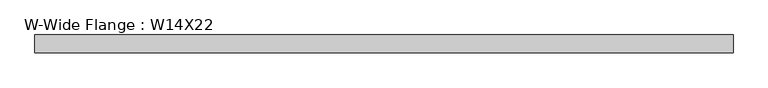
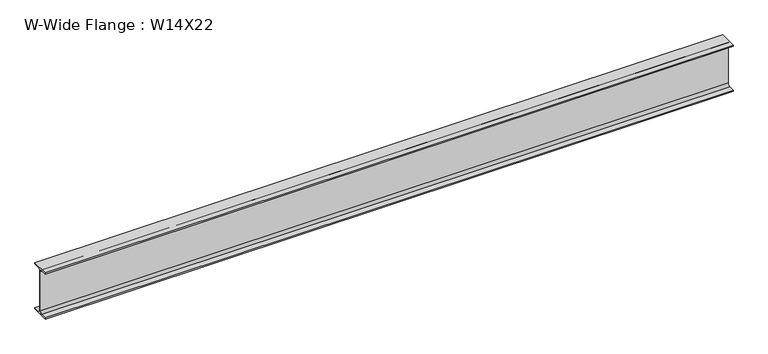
"""IFC4 building model written with IfcOpenShell, lengths in millimetres: beam geometry, W-Wide Flange : W14X22."""

from ifc_helpers import new_model, si_unit, point, frame, frame_2d, origin, place, context, project, spatial, polyline, circle_curve, trimmed, segment, composite_curve, outline, extrude, source, transform, mapped, element, save


def w_wide_flange_w14x22_59cbeafc(model_context):
    return source(origin(), model_context, "Body", "SweptSolid", [
        extrude(outline(composite_curve([segment(polyline([(63.5, -165.481), (63.5, -173.99), (-63.5, -173.99), (-63.5, -165.481), (-21.3995, -165.481)]), True, "CONTINUOUS"), segment(trimmed(circle_curve(frame_2d((-21.3995, -147.0025)), 18.4785), [point((-21.3995, -165.481))], [point((-2.921, -147.0025))], True, "CARTESIAN"), True, "CONTINUOUS"), segment(polyline([(-2.921, -147.0025), (-2.921, 147.0025)]), True, "CONTINUOUS"), segment(trimmed(circle_curve(frame_2d((-21.3995, 147.0025)), 18.4785), [point((-2.921, 147.0025))], [point((-21.3995, 165.481))], True, "CARTESIAN"), True, "CONTINUOUS"), segment(polyline([(-21.3995, 165.481), (-63.5, 165.481), (-63.5, 173.99), (63.5, 173.99), (63.5, 165.481), (21.3995, 165.481)]), True, "CONTINUOUS"), segment(trimmed(circle_curve(frame_2d((21.3995, 147.0025)), 18.4785), [point((21.3995, 165.481))], [point((2.921, 147.0025))], True, "CARTESIAN"), True, "CONTINUOUS"), segment(polyline([(2.921, 147.0025), (2.921, -147.0025)]), True, "CONTINUOUS"), segment(trimmed(circle_curve(frame_2d((21.3995, -147.0025)), 18.4785), [point((2.921, -147.0025))], [point((21.3995, -165.481))], True, "CARTESIAN"), True, "CONTINUOUS"), segment(polyline([(21.3995, -165.481), (63.5, -165.481)]), True, "CONTINUOUS")], self_intersect=False)), frame((-2429.0183341, 0.0, 0.0), z_axis=(1.0, 0.0, 0.0), x_axis=(0.0, 1.0, 0.0)), (0.0, 0.0, 1.0), 4912.4195312),
    ])


if __name__ == "__main__":
    model = new_model("IFC4")
    model_context = context("Model", 3, world=origin())
    ifc_project = project(units=[si_unit("LENGTHUNIT", "METRE", prefix="MILLI")], contexts=[model_context])
    site = spatial("IfcSite", under=ifc_project)
    building = spatial("IfcBuilding", under=site)
    placement = place(None, origin())
    w_wide_flange_w14x22_shape = w_wide_flange_w14x22_59cbeafc(model_context)
    element("IfcBeam", 1, ObjectType="W-Wide Flange : W14X22", at=placement, inside=building, context=model_context, shape_type="MappedRepresentation", body=[
        mapped(w_wide_flange_w14x22_shape, transform((0.0, 0.0, 0.0), x_axis=(1.0, 0.0, 0.0), y_axis=(0.0, 1.0, 0.0), z_axis=(0.0, 0.0, 1.0))),
    ])
    save(model, "model.ifc")
